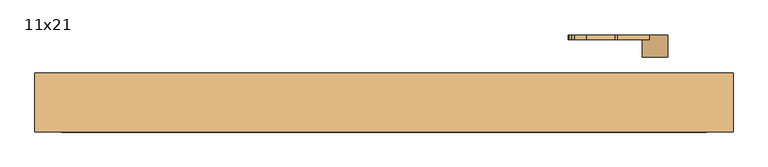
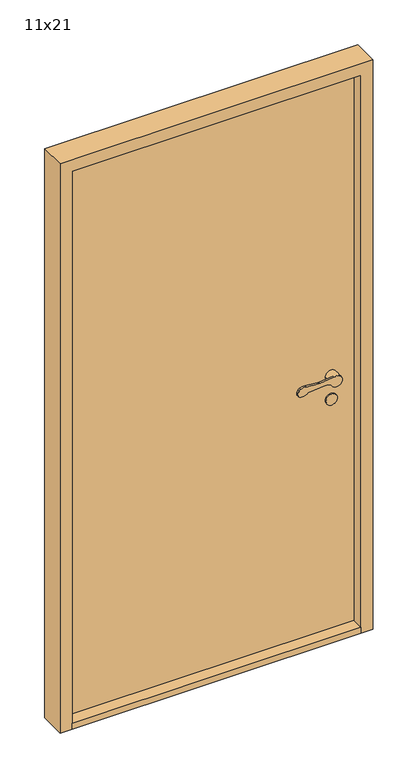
"""IFC4 building model written with IfcOpenShell, lengths in millimetres: door geometry, Innerdør Slett (Diplomat) : 11x21."""

import ifcopenshell
import ifcopenshell.guid

model = None  # the IFC model being written
_history = None  # IfcOwnerHistory: only IFC2X3 demands one
_inside = {}  # id of a spatial element -> (the spatial element, [elements in it])
_under = {}  # id of a project, library or spatial element -> (it, [spatial elements below it])
_declared = {}  # id of a project -> (the project, [libraries it declares])
_typed = {}  # id of a type object -> (the type object, [elements of that type])
_made_of = {}  # id of a material, layer set ... -> (it, [elements and type objects made of it])


def new_model(schema):
    """Start an empty IFC model of exactly this schema.

    Asked for "IFC4X3", IfcOpenShell would pick the latest addendum, in which some entities
    have other attributes; the version numbers below select the first issue.
    IFC2X3 requires an IfcOwnerHistory on every rooted entity: one is made here for all.
    """
    global model, _history
    if schema == "IFC4X3":
        model = ifcopenshell.file(schema_version=(4, 3, 0, 0))
    else:
        model = ifcopenshell.file(schema=schema)
    _inside.clear()
    _under.clear()
    _declared.clear()
    _typed.clear()
    _made_of.clear()
    _history = None
    if model.schema == "IFC2X3":
        org = make("IfcOrganization", Name="unknown")
        user = make(
            "IfcPersonAndOrganization",
            ThePerson=make("IfcPerson", FamilyName="unknown"),
            TheOrganization=org,
        )
        app = make(
            "IfcApplication",
            ApplicationDeveloper=org,
            Version="unknown",
            ApplicationFullName="unknown",
            ApplicationIdentifier="unknown",
        )
        _history = make(
            "IfcOwnerHistory",
            OwningUser=user,
            OwningApplication=app,
            ChangeAction="ADDED",
            CreationDate=0,
        )
    return model


def make(cls, **values):
    """One entity of the class cls with the attributes given. An attribute that is None is left unset."""
    return model.create_entity(
        cls, **{name: value for name, value in values.items() if value is not None}
    )


def rooted(cls, **values):
    """An entity with a GlobalId (a new one), such as an element, a storey or a relation."""
    return make(cls, GlobalId=ifcopenshell.guid.new(), OwnerHistory=_history, **values)


def si_unit(unit_type, name, prefix=None):
    """IfcSIUnit, for example si_unit("LENGTHUNIT", "METRE", prefix="MILLI")."""
    return make("IfcSIUnit", UnitType=unit_type, Prefix=prefix, Name=name)


def assignment(units):
    """IfcUnitAssignment: the units of a project."""
    return None if units is None else make("IfcUnitAssignment", Units=units)


def point(xyz):
    """IfcCartesianPoint."""
    return None if xyz is None else make("IfcCartesianPoint", Coordinates=xyz)


def direction(xyz):
    """IfcDirection."""
    return None if xyz is None else make("IfcDirection", DirectionRatios=xyz)


def frame(location, z_axis=None, x_axis=None):
    """IfcAxis2Placement3D, a coordinate frame: its origin and axes. An axis left out is left unset."""
    return make(
        "IfcAxis2Placement3D",
        Location=point(location),
        Axis=direction(z_axis),
        RefDirection=direction(x_axis),
    )


def frame_2d(location, x_axis=None):
    """IfcAxis2Placement2D, a coordinate frame in the plane: its origin and x axis."""
    return make(
        "IfcAxis2Placement2D", Location=point(location), RefDirection=direction(x_axis)
    )


def origin():
    """The frame at (0, 0, 0) with its axes left unset."""
    return frame((0.0, 0.0, 0.0))


def origin_with_axes():
    """The frame at (0, 0, 0) with the z axis (0, 0, 1) and the x axis (1, 0, 0) written out."""
    return frame((0.0, 0.0, 0.0), z_axis=(0.0, 0.0, 1.0), x_axis=(1.0, 0.0, 0.0))


def place(relative_to, where):
    """IfcLocalPlacement: puts the frame where relative to a parent placement (None: the world)."""
    return make(
        "IfcLocalPlacement", PlacementRelTo=relative_to, RelativePlacement=where
    )


def context(
    kind, dimensions, precision=None, world=None, true_north=None, identifier=None
):
    """IfcGeometricRepresentationContext, for example the 3D "Model" context."""
    return make(
        "IfcGeometricRepresentationContext",
        ContextIdentifier=identifier,
        ContextType=kind,
        CoordinateSpaceDimension=dimensions,
        Precision=precision,
        WorldCoordinateSystem=world,
        TrueNorth=true_north,
    )


def project(units=None, contexts=None):
    """IfcProject with its units and contexts."""
    return rooted(
        "IfcProject",
        Name="project",
        RepresentationContexts=contexts,
        UnitsInContext=assignment(units),
    )


def spatial(cls, under=None, at=None, **own):
    """A site, building, storey or space (cls), placed at a placement, below another one or the project."""
    s = rooted(cls, ObjectPlacement=at, **own)
    if under is not None:
        _under.setdefault(under.id(), (under, []))[1].append(s)
    return s


def polyline(points):
    """IfcPolyline through the points."""
    return make("IfcPolyline", Points=[point(p) for p in points])


def circle_curve(where, radius):
    """IfcCircle in the frame where."""
    return make("IfcCircle", Position=where, Radius=radius)


def trimmed(basis, trim1, trim2, sense, master):
    """IfcTrimmedCurve: the piece of a basis curve between two trims."""
    return make(
        "IfcTrimmedCurve",
        BasisCurve=basis,
        Trim1=trim1,
        Trim2=trim2,
        SenseAgreement=sense,
        MasterRepresentation=master,
    )


def segment(curve, same_sense, transition):
    """IfcCompositeCurveSegment."""
    return make(
        "IfcCompositeCurveSegment",
        Transition=transition,
        SameSense=same_sense,
        ParentCurve=curve,
    )


def composite_curve(segments, self_intersect=None):
    """IfcCompositeCurve: segments joined end to end."""
    return make("IfcCompositeCurve", Segments=segments, SelfIntersect=self_intersect)


def outline(outer, holes=None, kind="AREA"):
    """IfcArbitraryClosedProfileDef: a profile drawn as a closed curve; with holes, ...WithVoids."""
    if holes is None:
        return make("IfcArbitraryClosedProfileDef", ProfileType=kind, OuterCurve=outer)
    return make(
        "IfcArbitraryProfileDefWithVoids",
        ProfileType=kind,
        OuterCurve=outer,
        InnerCurves=holes,
    )


def extrude(swept, where, along, depth):
    """IfcExtrudedAreaSolid: the profile swept, set in the frame where, extruded along a direction by depth."""
    return make(
        "IfcExtrudedAreaSolid",
        SweptArea=swept,
        Position=where,
        ExtrudedDirection=direction(along),
        Depth=depth,
    )


def shape(context_of_items, identifier, shape_type, items):
    """IfcShapeRepresentation: the items that make up one representation, for example the "Body"."""
    return make(
        "IfcShapeRepresentation",
        ContextOfItems=context_of_items,
        RepresentationIdentifier=identifier,
        RepresentationType=shape_type,
        Items=items,
    )


def source(mapping_origin, context_of_items, identifier, shape_type, items):
    """IfcRepresentationMap: a shape defined once, which mapped items show again and again."""
    return make(
        "IfcRepresentationMap",
        MappingOrigin=mapping_origin,
        MappedRepresentation=shape(context_of_items, identifier, shape_type, items),
    )


def transform(
    local_origin,
    x_axis=None,
    y_axis=None,
    z_axis=None,
    scale=None,
    scale2=None,
    scale3=None,
    uniform=True,
):
    """IfcCartesianTransformationOperator3D, or its non-uniform kind. x_axis, y_axis, z_axis: its Axis1, 2, 3."""
    if uniform:
        return make(
            "IfcCartesianTransformationOperator3D",
            Axis1=direction(x_axis),
            Axis2=direction(y_axis),
            LocalOrigin=point(local_origin),
            Scale=scale,
            Axis3=direction(z_axis),
        )
    return make(
        "IfcCartesianTransformationOperator3DnonUniform",
        Axis1=direction(x_axis),
        Axis2=direction(y_axis),
        LocalOrigin=point(local_origin),
        Scale=scale,
        Axis3=direction(z_axis),
        Scale2=scale2,
        Scale3=scale3,
    )


def mapped(mapping_source, mapping_target):
    """IfcMappedItem: shows the shape of a source again, moved by a transform."""
    return make(
        "IfcMappedItem", MappingSource=mapping_source, MappingTarget=mapping_target
    )


def made_of(thing, what):
    """Note that an element or type object is made of a material, layer set ...; save() writes the relation."""
    if what is not None:
        _made_of.setdefault(what.id(), (what, []))[1].append(thing)
    return thing


def element(
    cls,
    number,
    at=None,
    inside=None,
    cuts=None,
    type_object=None,
    material=None,
    context=None,
    identifier="Body",
    shape_type=None,
    held_by="IfcProductDefinitionShape",
    body=None,
    shapes=None,
    **own,
):
    """One element of the class cls, such as IfcWall. Its Tag is "e" and its number.

    at: its placement. inside: the storey or other place that contains it. cuts: it is an
    opening in that element (IfcRelVoidsElement). A single representation is given by context,
    identifier, shape_type and body (its items); several are given by shapes. held_by: the class
    of the entity that holds the representations. save() writes the other relations.
    """
    e = rooted(cls, Tag="e%d" % number, ObjectPlacement=at, **own)
    if body is not None:
        shapes = [shape(context, identifier, shape_type, body)]
    if shapes is not None:
        e.Representation = make(held_by, Representations=shapes)
    if inside is not None:
        _inside.setdefault(inside.id(), (inside, []))[1].append(e)
    if cuts is not None:
        rooted(
            "IfcRelVoidsElement", RelatingBuildingElement=cuts, RelatedOpeningElement=e
        )
    if type_object is not None:
        _typed.setdefault(type_object.id(), (type_object, []))[1].append(e)
    return made_of(e, material)


def aggregate(whole, parts):
    """IfcRelAggregates: a whole, such as a stair, and the parts it consists of."""
    return rooted("IfcRelAggregates", RelatingObject=whole, RelatedObjects=parts)


def save(model, path):
    """Write the relations noted so far, then the file.

    IfcRelAggregates (storeys below a building ...), IfcRelContainedInSpatialStructure (elements
    in a storey), IfcRelDefinesByType, IfcRelAssociatesMaterial and IfcRelDeclares: one each for
    every whole, place, type object, material and project.
    """
    for whole, parts in _under.values():
        aggregate(whole, parts)
    for where, things in _inside.values():
        rooted(
            "IfcRelContainedInSpatialStructure",
            RelatedElements=things,
            RelatingStructure=where,
        )
    for kind, things in _typed.values():
        rooted("IfcRelDefinesByType", RelatedObjects=things, RelatingType=kind)
    for what, things in _made_of.values():
        rooted("IfcRelAssociatesMaterial", RelatedObjects=things, RelatingMaterial=what)
    for by, libraries in _declared.values():
        rooted("IfcRelDeclares", RelatingContext=by, RelatedDefinitions=libraries)
    model.write(path)


def plane_surface(at):
    """IfcPlane: the flat surface through the origin of the frame at, square to its z axis."""
    return make("IfcPlane", Position=at)


def cylinder_surface(at, radius):
    """IfcCylindricalSurface: all points at the distance radius from the z axis of the frame at."""
    return make("IfcCylindricalSurface", Position=at, Radius=radius)


def revolved_surface(curve, axis_point, axis_direction):
    """IfcSurfaceOfRevolution: the curve turned about the line through axis_point along axis_direction."""
    return make(
        "IfcSurfaceOfRevolution",
        SweptCurve=make("IfcArbitraryOpenProfileDef", ProfileType="CURVE", Curve=curve),
        AxisPosition=make("IfcAxis1Placement", Location=point(axis_point), Axis=direction(axis_direction)),
    )


def advanced_brep(points, edges, surfaces, faces):
    """IfcAdvancedBrep: a solid bounded by faces that lie on surfaces and meet in shared edges.

    An edge is (start, end): straight between two places in points (the first is 0);
    or (start, end, curve); or (start, end, curve, False) where it runs against its curve.
    A face is (place in surfaces, loops), or (place, loops, False) where it looks against
    its surface's normal. A loop lists edges by number (the first is 1), with a minus sign
    where the edge is run from its end to its start. The first loop is the outer one.
    """
    corners = [point(p) for p in points]
    vertices = [make("IfcVertexPoint", VertexGeometry=c) for c in corners]
    made = []
    for start, end, *more in edges:
        made.append(
            make(
                "IfcEdgeCurve",
                EdgeStart=vertices[start],
                EdgeEnd=vertices[end],
                EdgeGeometry=more[0] if more else make("IfcPolyline", Points=[corners[start], corners[end]]),
                SameSense=more[1] if len(more) > 1 else True,
            )
        )
    hull = []
    for where, loops, *sense in faces:
        bounds = []
        for j, loop in enumerate(loops):
            ring = [make("IfcOrientedEdge", EdgeElement=made[abs(k) - 1], Orientation=k > 0) for k in loop]
            bounds.append(
                make(
                    "IfcFaceOuterBound" if j == 0 else "IfcFaceBound",
                    Bound=make("IfcEdgeLoop", EdgeList=ring),
                    Orientation=True,
                )
            )
        hull.append(make("IfcAdvancedFace", Bounds=bounds, FaceSurface=surfaces[where], SameSense=sense[0] if sense else True))
    return make("IfcAdvancedBrep", Outer=make("IfcClosedShell", CfsFaces=hull))


def door_11x21_133cae72(model_context):
    return source(origin(), model_context, "Body", "SolidModel", [
        advanced_brep(
        [(443.9611305, -45.0, 949.1175955), (458.3841161, -45.0, 942.6204086), (496.379633, -45.0, 951.3474568), (467.2687793, -45.0, 969.1517356), (418.6891233, -45.0, 964.26032), (413.6202158, -45.0, 964.1804415), (368.8963175, -45.0, 967.2639242), (350.3175669, -45.0, 964.8810513), (345.505009, -45.0, 959.9624074), (341.8691983, -45.0, 951.8913379), (346.721536, -45.0, 938.7393398), (376.0476109, -45.0, 943.6260011), (438.8520664, -45.0, 949.9496913), (418.6891233, -37.8915284, 964.26032), (467.2687793, -37.8915284, 969.1517356), (456.379633, -37.8915284, 951.3474568), (458.3841161, -37.8915284, 942.6204086), (443.9611305, -37.8915284, 949.1175955), (438.8520664, -37.8915284, 949.9496913), (376.0476109, -37.8915284, 943.6260011), (346.721536, -37.8915284, 938.7393398), (341.8691983, -37.8915284, 951.8913379), (345.505009, -37.8915284, 959.9624074), (350.3175669, -37.8915284, 964.8810513), (368.8963175, -37.8915284, 967.2639242), (413.6202158, -37.8915284, 964.1804415), (496.379633, -10.0, 951.3474568), (456.379633, -10.0, 951.3474568)],
        [
            (0, 1),
            (1, 2, circle_curve(frame((476.379633, -45.0, 951.3474568), z_axis=(0.0, -1.0, 0.0), x_axis=(-1.0, 0.0, 0.0)), 20.0)),
            (2, 3, circle_curve(frame((476.379633, -45.0, 951.3474568), z_axis=(0.0, -1.0, 0.0), x_axis=(-1.0, 0.0, 0.0)), 20.0)),
            (3, 4),
            (4, 5, circle_curve(frame((415.683663, -45.0, 994.1093938), z_axis=(0.0, 1.0, 0.0), x_axis=(-0.9949691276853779, 0.0, -0.10018200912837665)), 30.0)),
            (5, 6),
            (6, 7, circle_curve(frame((363.2326797, -45.0, 937.8033877), z_axis=(0.0, -1.0, 0.0), x_axis=(-0.9949691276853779, 0.0, -0.10018200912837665)), 30.0)),
            (7, 8, circle_curve(frame((354.6226045, -45.0, 955.8551634), z_axis=(0.0, -1.0, 0.0), x_axis=(-0.9949691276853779, 0.0, -0.10018200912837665)), 10.0)),
            (8, 9),
            (9, 10, circle_curve(frame((350.9867937, -45.0, 947.7840939), z_axis=(0.0, -1.0, 0.0), x_axis=(-0.9949691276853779, 0.0, -0.10018200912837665)), 10.0)),
            (10, 11, circle_curve(frame((357.8569644, -45.0, 962.352734), z_axis=(0.0, -1.0, 0.0), x_axis=(-0.9949691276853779, 0.0, -0.10018200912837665)), 26.1072815)),
            (11, 12),
            (12, 0, circle_curve(frame((439.8538865, -45.0, 940.0), z_axis=(0.0, 1.0, 0.0), x_axis=(-0.9949691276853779, 0.0, -0.10018200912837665)), 10.0)),
            (13, 14),
            (14, 15, circle_curve(frame((476.379633, -37.8915284, 951.3474568), z_axis=(0.0, -1.0, 0.0), x_axis=(-1.0, 0.0, 0.0)), 20.0)),
            (15, 16, circle_curve(frame((476.379633, -37.8915284, 951.3474568), z_axis=(0.0, -1.0, 0.0), x_axis=(-1.0, 0.0, 0.0)), 20.0)),
            (16, 17),
            (17, 18, circle_curve(frame((439.8538865, -37.8915284, 940.0), z_axis=(0.0, -1.0, 0.0), x_axis=(-0.9949691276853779, 0.0, -0.10018200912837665)), 10.0)),
            (18, 19),
            (19, 20, circle_curve(frame((357.8569644, -37.8915284, 962.352734), z_axis=(0.0, 1.0, 0.0), x_axis=(-0.9949691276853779, 0.0, -0.10018200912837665)), 26.1072815)),
            (20, 21, circle_curve(frame((350.9867937, -37.8915284, 947.7840939), z_axis=(0.0, 1.0, 0.0), x_axis=(-0.9949691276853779, 0.0, -0.10018200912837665)), 10.0)),
            (21, 22),
            (22, 23, circle_curve(frame((354.6226045, -37.8915284, 955.8551634), z_axis=(0.0, 1.0, 0.0), x_axis=(-0.9949691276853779, 0.0, -0.10018200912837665)), 10.0)),
            (23, 24, circle_curve(frame((363.2326797, -37.8915284, 937.8033877), z_axis=(0.0, 1.0, 0.0), x_axis=(-0.9949691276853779, 0.0, -0.10018200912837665)), 30.0)),
            (24, 25),
            (25, 13, circle_curve(frame((415.683663, -37.8915284, 994.1093938), z_axis=(0.0, -1.0, 0.0), x_axis=(-0.9949691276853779, 0.0, -0.10018200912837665)), 30.0)),
            (3, 14),
            (13, 4),
            (16, 1),
            (0, 17),
            (12, 18),
            (11, 19),
            (10, 20),
            (9, 21),
            (8, 22),
            (7, 23),
            (6, 24),
            (5, 25),
            (26, 27, circle_curve(frame((476.379633, -10.0, 951.3474568), z_axis=(0.0, 1.0, 0.0), x_axis=(-1.0, 0.0, 0.0)), 20.0)),
            (27, 26, circle_curve(frame((476.379633, -10.0, 951.3474568), z_axis=(0.0, 1.0, 0.0), x_axis=(-1.0, 0.0, 0.0)), 20.0)),
            (26, 2),
            (15, 27),
        ],
        [
            plane_surface(frame((467.6960588, -45.0, 969.1947577), z_axis=(0.0, -1.0000000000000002, 0.0), x_axis=(0.9949691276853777, 0.0, 0.10018200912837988))),
            plane_surface(frame((467.6960588, -37.8915284, 969.1947577), z_axis=(0.0, 1.0000000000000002, 0.0), x_axis=(-0.9949691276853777, 0.0, -0.10018200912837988))),
            plane_surface(frame((418.6891233, -45.0, 964.26032), z_axis=(-0.10018200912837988, 0.0, 0.9949691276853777), x_axis=(0.0, 1.0, 0.0))),
            plane_surface(frame((476.9687366, -45.0, 934.2485115), z_axis=(-0.41072439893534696, 0.0, -0.91175954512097), x_axis=(0.0, 1.0, 0.0))),
            revolved_surface(polyline([(429.9041952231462, -37.8915284, 938.9981799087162), (429.9041952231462, -45.0, 938.9981799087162)]), (439.8538865, -37.8915284, 940.0), (0.0, 1.0, 0.0)),
            plane_surface(frame((438.8520664, -45.0, 949.9496913), z_axis=(0.10018200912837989, 0.0, -0.9949691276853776), x_axis=(0.0, 1.0, 0.0))),
            cylinder_surface(frame((357.8569644, -37.8915284, 962.352734), z_axis=(0.0, -1.0, 0.0), x_axis=(-0.9949691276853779, 0.0, -0.10018200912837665)), 26.1072815),
            cylinder_surface(frame((350.9867937, -37.8915284, 947.7840939), z_axis=(0.0, -1.0, 0.0), x_axis=(-0.9949691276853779, 0.0, -0.10018200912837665)), 10.0),
            plane_surface(frame((341.8691983, -45.0, 951.8913379), z_axis=(-0.9117595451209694, 0.0, 0.41072439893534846), x_axis=(0.0, 1.0, 0.0))),
            cylinder_surface(frame((354.6226045, -37.8915284, 955.8551634), z_axis=(0.0, -1.0, 0.0), x_axis=(-0.9949691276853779, 0.0, -0.10018200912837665)), 10.0),
            cylinder_surface(frame((363.2326797, -37.8915284, 937.8033877), z_axis=(0.0, -1.0, 0.0), x_axis=(-0.9949691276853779, 0.0, -0.10018200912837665)), 30.0),
            plane_surface(frame((368.8963175, -45.0, 967.2639242), z_axis=(0.06878157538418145, 0.0, 0.9976317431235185), x_axis=(0.0, 1.0, 0.0))),
            revolved_surface(polyline([(385.8345891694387, -37.8915284, 991.1039335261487), (385.8345891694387, -45.0, 991.1039335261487)]), (415.683663, -37.8915284, 994.1093938), (0.0, 1.0, 0.0)),
            plane_surface(frame((456.379633, -10.0, 951.3474568), z_axis=(0.0, 1.0, 0.0), x_axis=(0.0, 0.0, -1.0))),
            cylinder_surface(frame((476.379633, -10.0, 951.3474568), z_axis=(0.0, -1.0, 0.0), x_axis=(-1.0, 0.0, 0.0)), 20.0),
        ],
        [
            (0, [[1, 2, 3, 4, 5, 6, 7, 8, 9, 10, 11, 12, 13]]),
            (1, [[14, 15, 16, 17, 18, 19, 20, 21, 22, 23, 24, 25, 26]]),
            (2, [[-4, 27, -14, 28]]),
            (3, [[-17, 29, -1, 30]]),
            (4, [[31, -18, -30, -13]]),
            (5, [[32, -19, -31, -12]]),
            (6, [[33, -20, -32, -11]]),
            (7, [[34, -21, -33, -10]]),
            (8, [[35, -22, -34, -9]]),
            (9, [[36, -23, -35, -8]]),
            (10, [[37, -24, -36, -7]]),
            (11, [[38, -25, -37, -6]]),
            (12, [[-28, -26, -38, -5]]),
            (13, [[39, 40]]),
            (14, [[41, -2, -29, -16, 42, -39]]),
            (14, [[-42, -15, -27, -3, -41, -40]]),
        ],
    ),
        extrude(outline(composite_curve([segment(trimmed(circle_curve(frame_2d((866.3474568, 476.379633)), 20.0), [point((866.3474568, 496.379633))], [point((866.3474568, 456.379633))], False, "CARTESIAN"), True, "CONTINUOUS"), segment(trimmed(circle_curve(frame_2d((866.3474568, 476.379633)), 20.0), [point((866.3474568, 456.379633))], [point((866.3474568, 496.379633))], False, "CARTESIAN"), True, "CONTINUOUS")], self_intersect=False)), frame((0.0, -15.0, 0.0), z_axis=(0.0, 1.0, 0.0), x_axis=(0.0, 0.0, 1.0)), (0.0, 0.0, 1.0), 5.0),
        advanced_brep(
        [(443.9611305, 100.0, 949.1175955), (438.8520664, 100.0, 949.9496913), (376.0476109, 100.0, 943.6260011), (346.721536, 100.0, 938.7393398), (341.8691983, 100.0, 951.8913379), (345.505009, 100.0, 959.9624074), (350.3175669, 100.0, 964.8810513), (368.8963175, 100.0, 967.2639242), (413.6202158, 100.0, 964.1804415), (418.6891233, 100.0, 964.26032), (467.2687793, 100.0, 969.1517356), (496.379633, 100.0, 951.3474568), (458.3841161, 100.0, 942.6204086), (418.6891233, 92.8915284, 964.26032), (413.6202158, 92.8915284, 964.1804415), (368.8963175, 92.8915284, 967.2639242), (350.3175669, 92.8915284, 964.8810513), (345.505009, 92.8915284, 959.9624074), (341.8691983, 92.8915284, 951.8913379), (346.721536, 92.8915284, 938.7393398), (376.0476109, 92.8915284, 943.6260011), (438.8520664, 92.8915284, 949.9496913), (443.9611305, 92.8915284, 949.1175955), (458.3841161, 92.8915284, 942.6204086), (456.379633, 92.8915284, 951.3474568), (467.2687793, 92.8915284, 969.1517356), (496.379633, 65.0, 951.3474568), (456.379633, 65.0, 951.3474568)],
        [
            (0, 1, circle_curve(frame((439.8538865, 100.0, 940.0), z_axis=(0.0, -1.0, 0.0), x_axis=(-0.9949691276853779, 0.0, -0.10018200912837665)), 10.0)),
            (1, 2),
            (2, 3, circle_curve(frame((357.8569644, 100.0, 962.352734), z_axis=(0.0, 1.0, 0.0), x_axis=(-0.9949691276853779, 0.0, -0.10018200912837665)), 26.1072815)),
            (3, 4, circle_curve(frame((350.9867937, 100.0, 947.7840939), z_axis=(0.0, 1.0, 0.0), x_axis=(-0.9949691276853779, 0.0, -0.10018200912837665)), 10.0)),
            (4, 5),
            (5, 6, circle_curve(frame((354.6226045, 100.0, 955.8551634), z_axis=(0.0, 1.0, 0.0), x_axis=(-0.9949691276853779, 0.0, -0.10018200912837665)), 10.0)),
            (6, 7, circle_curve(frame((363.2326797, 100.0, 937.8033877), z_axis=(0.0, 1.0, 0.0), x_axis=(-0.9949691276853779, 0.0, -0.10018200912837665)), 30.0)),
            (7, 8),
            (8, 9, circle_curve(frame((415.683663, 100.0, 994.1093938), z_axis=(0.0, -1.0, 0.0), x_axis=(-0.9949691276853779, 0.0, -0.10018200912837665)), 30.0)),
            (9, 10),
            (10, 11, circle_curve(frame((476.379633, 100.0, 951.3474568), z_axis=(0.0, 1.0, 0.0), x_axis=(-1.0, 0.0, 0.0)), 20.0)),
            (11, 12, circle_curve(frame((476.379633, 100.0, 951.3474568), z_axis=(0.0, 1.0, 0.0), x_axis=(-1.0, 0.0, 0.0)), 20.0)),
            (12, 0),
            (13, 14, circle_curve(frame((415.683663, 92.8915284, 994.1093938), z_axis=(0.0, 1.0, 0.0), x_axis=(-0.9949691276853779, 0.0, -0.10018200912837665)), 30.0)),
            (14, 15),
            (15, 16, circle_curve(frame((363.2326797, 92.8915284, 937.8033877), z_axis=(0.0, -1.0, 0.0), x_axis=(-0.9949691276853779, 0.0, -0.10018200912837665)), 30.0)),
            (16, 17, circle_curve(frame((354.6226045, 92.8915284, 955.8551634), z_axis=(0.0, -1.0, 0.0), x_axis=(-0.9949691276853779, 0.0, -0.10018200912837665)), 10.0)),
            (17, 18),
            (18, 19, circle_curve(frame((350.9867937, 92.8915284, 947.7840939), z_axis=(0.0, -1.0, 0.0), x_axis=(-0.9949691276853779, 0.0, -0.10018200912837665)), 10.0)),
            (19, 20, circle_curve(frame((357.8569644, 92.8915284, 962.352734), z_axis=(0.0, -1.0, 0.0), x_axis=(-0.9949691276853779, 0.0, -0.10018200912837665)), 26.1072815)),
            (20, 21),
            (21, 22, circle_curve(frame((439.8538865, 92.8915284, 940.0), z_axis=(0.0, 1.0, 0.0), x_axis=(-0.9949691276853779, 0.0, -0.10018200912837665)), 10.0)),
            (22, 23),
            (23, 24, circle_curve(frame((476.379633, 92.8915284, 951.3474568), z_axis=(0.0, 1.0, 0.0), x_axis=(-1.0, 0.0, 0.0)), 20.0)),
            (24, 25, circle_curve(frame((476.379633, 92.8915284, 951.3474568), z_axis=(0.0, 1.0, 0.0), x_axis=(-1.0, 0.0, 0.0)), 20.0)),
            (25, 13),
            (9, 13),
            (25, 10),
            (22, 0),
            (12, 23),
            (21, 1),
            (20, 2),
            (19, 3),
            (18, 4),
            (17, 5),
            (16, 6),
            (15, 7),
            (14, 8),
            (26, 27, circle_curve(frame((476.379633, 65.0, 951.3474568), z_axis=(0.0, -1.0, 0.0), x_axis=(-1.0, 0.0, 0.0)), 20.0)),
            (27, 26, circle_curve(frame((476.379633, 65.0, 951.3474568), z_axis=(0.0, -1.0, 0.0), x_axis=(-1.0, 0.0, 0.0)), 20.0)),
            (27, 24),
            (11, 26),
        ],
        [
            plane_surface(frame((467.6960588, 100.0, 969.1947577), z_axis=(0.0, 1.0000000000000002, 0.0), x_axis=(0.9949691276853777, 0.0, 0.10018200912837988))),
            plane_surface(frame((467.6960588, 92.8915284, 969.1947577), z_axis=(0.0, -1.0000000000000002, 0.0), x_axis=(-0.9949691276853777, 0.0, -0.10018200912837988))),
            plane_surface(frame((418.6891233, 100.0, 964.26032), z_axis=(-0.10018200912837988, 0.0, 0.9949691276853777), x_axis=(0.0, -1.0, 0.0))),
            plane_surface(frame((476.9687366, 100.0, 934.2485115), z_axis=(-0.41072439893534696, 0.0, -0.91175954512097), x_axis=(0.0, -1.0, 0.0))),
            revolved_surface(polyline([(429.9041952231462, 92.8915284, 938.9981799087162), (429.9041952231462, 100.0, 938.9981799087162)]), (439.8538865, 92.8915284, 940.0), (0.0, -1.0, 0.0)),
            plane_surface(frame((438.8520664, 100.0, 949.9496913), z_axis=(0.10018200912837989, 0.0, -0.9949691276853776), x_axis=(0.0, -1.0, 0.0))),
            cylinder_surface(frame((357.8569644, 92.8915284, 962.352734), z_axis=(0.0, 1.0, 0.0), x_axis=(-0.9949691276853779, 0.0, -0.10018200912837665)), 26.1072815),
            cylinder_surface(frame((350.9867937, 92.8915284, 947.7840939), z_axis=(0.0, 1.0, 0.0), x_axis=(-0.9949691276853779, 0.0, -0.10018200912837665)), 10.0),
            plane_surface(frame((341.8691983, 100.0, 951.8913379), z_axis=(-0.9117595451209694, 0.0, 0.41072439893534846), x_axis=(0.0, -1.0, 0.0))),
            cylinder_surface(frame((354.6226045, 92.8915284, 955.8551634), z_axis=(0.0, 1.0, 0.0), x_axis=(-0.9949691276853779, 0.0, -0.10018200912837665)), 10.0),
            cylinder_surface(frame((363.2326797, 92.8915284, 937.8033877), z_axis=(0.0, 1.0, 0.0), x_axis=(-0.9949691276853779, 0.0, -0.10018200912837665)), 30.0),
            plane_surface(frame((368.8963175, 100.0, 967.2639242), z_axis=(0.06878157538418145, 0.0, 0.9976317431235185), x_axis=(0.0, -1.0, 0.0))),
            revolved_surface(polyline([(385.8345891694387, 92.8915284, 991.1039335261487), (385.8345891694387, 100.0, 991.1039335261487)]), (415.683663, 92.8915284, 994.1093938), (0.0, -1.0, 0.0)),
            plane_surface(frame((456.379633, 65.0, 951.3474568), z_axis=(0.0, -1.0, 0.0), x_axis=(0.0, 0.0, -1.0))),
            cylinder_surface(frame((476.379633, 65.0, 951.3474568), z_axis=(0.0, 1.0, 0.0), x_axis=(-1.0, 0.0, 0.0)), 20.0),
        ],
        [
            (0, [[1, 2, 3, 4, 5, 6, 7, 8, 9, 10, 11, 12, 13]]),
            (1, [[14, 15, 16, 17, 18, 19, 20, 21, 22, 23, 24, 25, 26]]),
            (2, [[27, -26, 28, -10]]),
            (3, [[29, -13, 30, -23]]),
            (4, [[-1, -29, -22, 31]]),
            (5, [[-2, -31, -21, 32]]),
            (6, [[-3, -32, -20, 33]]),
            (7, [[-4, -33, -19, 34]]),
            (8, [[-5, -34, -18, 35]]),
            (9, [[-6, -35, -17, 36]]),
            (10, [[-7, -36, -16, 37]]),
            (11, [[-8, -37, -15, 38]]),
            (12, [[-9, -38, -14, -27]]),
            (13, [[39, 40]]),
            (14, [[-40, 41, -24, -30, -12, 42]]),
            (14, [[-39, -42, -11, -28, -25, -41]]),
        ],
    ),
        extrude(outline(composite_curve([segment(trimmed(circle_curve(frame_2d((866.3474568, 476.379633)), 20.0), [point((866.3474568, 496.379633))], [point((866.3474568, 456.379633))], False, "CARTESIAN"), True, "CONTINUOUS"), segment(trimmed(circle_curve(frame_2d((866.3474568, 476.379633)), 20.0), [point((866.3474568, 456.379633))], [point((866.3474568, 496.379633))], False, "CARTESIAN"), True, "CONTINUOUS")], self_intersect=False)), frame((0.0, 65.0, 0.0), z_axis=(0.0, 1.0, 0.0), x_axis=(0.0, 0.0, 1.0)), (0.0, 0.0, 1.0), 5.0),
        extrude(outline(polyline([(556.379633, -52.0), (-449.620367, -52.0), (-449.620367, 40.0), (556.379633, 40.0), (556.379633, -52.0)])), origin_with_axes(), (0.0, 0.0, 1.0), 22.0),
        extrude(outline(polyline([(556.379633, -10.0), (-449.620367, -10.0), (-449.620367, 40.0), (556.379633, 40.0), (556.379633, -10.0)])), frame((0.0, 0.0, 22.0), z_axis=(0.0, 0.0, 1.0), x_axis=(1.0, 0.0, 0.0)), (0.0, 0.0, 1.0), 2031.0),
        extrude(outline(polyline([(0.0, -491.620367), (0.0, -449.620367), (2053.0, -449.620367), (2053.0, 556.379633), (0.0, 556.379633), (0.0, 598.379633), (2095.0, 598.379633), (2095.0, -491.620367), (0.0, -491.620367)])), frame((0.0, -52.0, 0.0), z_axis=(0.0, 1.0, 0.0), x_axis=(0.0, 0.0, 1.0)), (0.0, 0.0, 1.0), 92.0),
    ])


if __name__ == "__main__":
    model = new_model("IFC4")
    model_context = context("Model", 3, world=origin())
    ifc_project = project(units=[si_unit("LENGTHUNIT", "METRE", prefix="MILLI")], contexts=[model_context])
    site = spatial("IfcSite", under=ifc_project)
    building = spatial("IfcBuilding", under=site)
    placement = place(None, origin())
    door_11x21_shape = door_11x21_133cae72(model_context)
    element("IfcDoor", 1, ObjectType="Innerdør Slett (Diplomat) : 11x21", at=placement, inside=building, context=model_context, shape_type="MappedRepresentation", body=[
        mapped(door_11x21_shape, transform((0.0, 0.0, 0.0), x_axis=(1.0, 0.0, 0.0), y_axis=(0.0, 1.0, 0.0), z_axis=(0.0, 0.0, 1.0))),
    ])
    save(model, "model.ifc")
